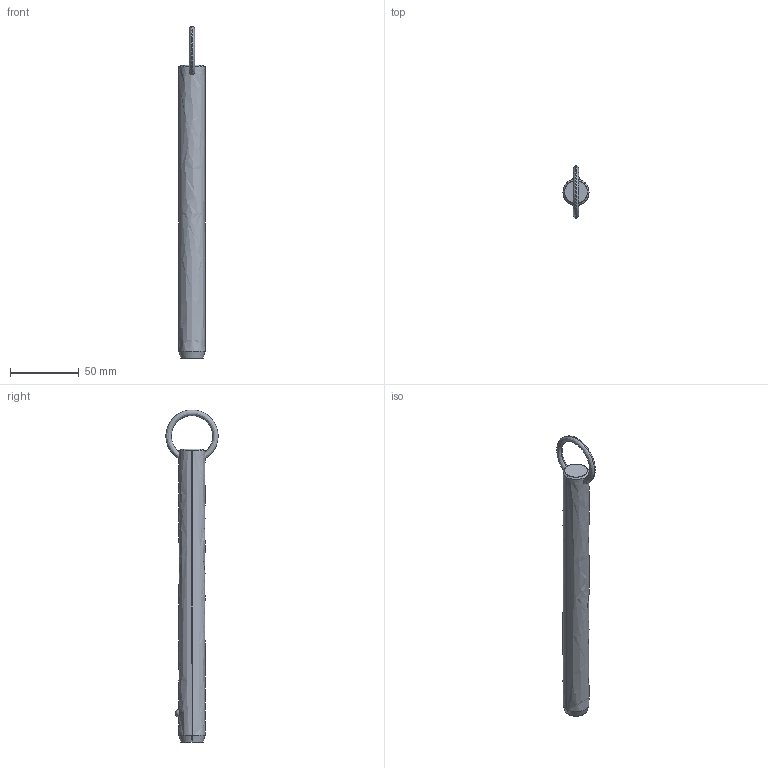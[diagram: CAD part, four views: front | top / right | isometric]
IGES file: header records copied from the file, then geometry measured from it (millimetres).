
Start section: SolidWorks IGES file using analytic representation for surfaces
Global section: file name: C:\Users\liam_\OneDrive\Documents\WORK\Work for WixRoyd\Job Files\J-00019 - Matt Davis CAD Checking\04. CAD Drawings\automotion20190605\P1250.2_v2\P1250.2_v2_20190729_IGES\P1250.075-710.igs; native system: SolidWorks 2017; preprocessor: SolidWorks 2017; author: liam_; date: 190730.000130; units: millimetre
Bounding box: 19 x 38.1 x 242.09 mm (x, y, z)
Surface area: 14276.7 mm2 (no closed solid volume)
Topology: 0 solids, 0 shells, 12 faces, 294 edges, 292 vertices
Faces by surface type: revolution 8, bspline 4
